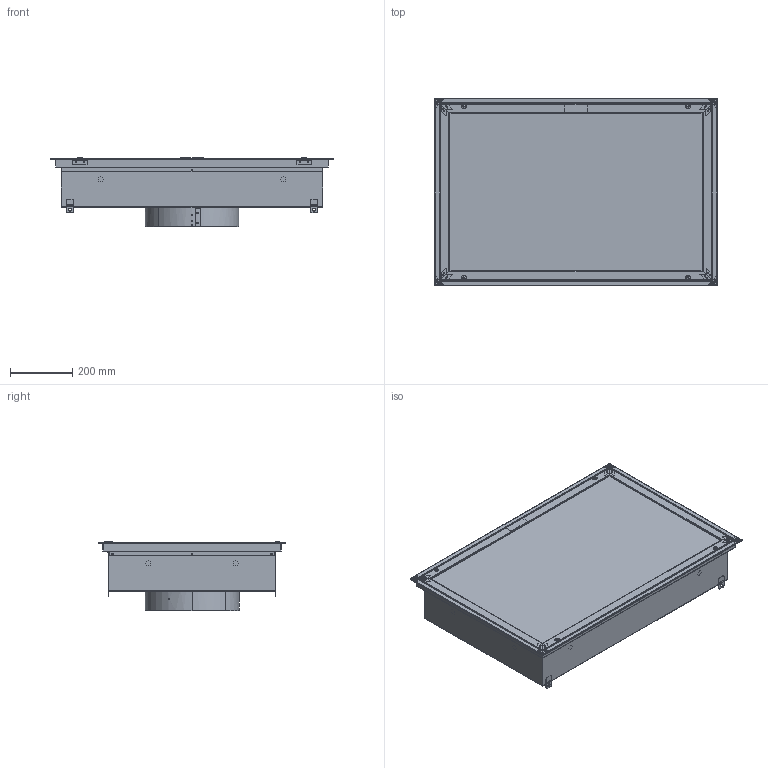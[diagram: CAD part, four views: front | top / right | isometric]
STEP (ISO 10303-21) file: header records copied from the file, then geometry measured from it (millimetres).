
FILE_DESCRIPTION (( 'STEP AP214' ), '1' );
FILE_NAME ('36 X 24_FRD_.STEP', '2025-07-25T19:03:11', ( '' ), ( '' ), 'SwSTEP 2.0', 'SolidWorks 2024', '' );
FILE_SCHEMA (( 'AUTOMOTIVE_DESIGN' ));
Length unit declared in the file: inch
Products named in the file (31): 061325-FRDs_PLASTER-SUB_L02; 061325-FRDs_FC2B20-A3_L02; 061325-FRDs_FC2B20-A4_L02; 061325-FRDs_H1E2_L02; 061325-FRDs_R2C1-SUB_L02; 061325-FRDs_H1E1_L02; 061325-FRDs_FC2B-SUB_L02; 061325-FRDs_FP3B20-A4_L02; 061325-FRDs_H2E2_L02_WELD CLIP, BOB FRAME; 061325-FRDs_H2E5_L02; 061325-FRDs_R2C1_L02; 061325-FRDs_FC2B20-A2_L02; 061325-FRDs_H1E3_L02; 061325-FRDs_P1B1B-SUB_L02; 061325-FRDs_H2G12_L02; 061325-FRDs_FACE-SUB_L02; 061325-FRDs_H1N2_L02; 061325-FRDs_PERF-SUB_L02; 061325-FRDs_FP3B20-A1_L02; 061325-FRDs_FP3B20-A2_L02; 061325-FRDs_H2E1_L02_WELD CLIP; 40º BEVEL FRAME; 061325-FRDs_H1F1_L02_1_4 TURN SPRING; 061325-FRDs_PLENUM-SUB_L02; 061325-FRDs_SAFETYCABLEASSEMBLY-SUB_L02; 061325-FRDs_FP3B20-A3_L02; 36 X 24_FRD_; 061325-FRDs_FC2B20-A1_L02; 061325-FRDs_P1B1B_L02; 061325-FRDs_C1C1C112_L02; 061325-FRDs_FP3B-SUB_L02; 061325-FRDs_H1Z24_L02
Assembly tree (52 placements, depth 5):
  36 X 24_FRD_
    061325-FRDs_PLASTER-SUB_L02
      061325-FRDs_FC2B-SUB_L02
        061325-FRDs_FC2B20-A1_L02
        061325-FRDs_FC2B20-A2_L02
        061325-FRDs_FC2B20-A3_L02
        061325-FRDs_FC2B20-A4_L02
        061325-FRDs_H2E2_L02_WELD CLIP, BOB FRAME  x4
        061325-FRDs_H2G12_L02  x4
        061325-FRDs_H1F1_L02_1_4 TURN SPRING  x4
    061325-FRDs_FACE-SUB_L02
      061325-FRDs_FP3B-SUB_L02
        061325-FRDs_FP3B20-A1_L02
        061325-FRDs_FP3B20-A2_L02
        061325-FRDs_FP3B20-A3_L02
        061325-FRDs_FP3B20-A4_L02
        061325-FRDs_H2E1_L02_WELD CLIP; 40º BEVEL FRAME  x4
        061325-FRDs_H1E1_L02  x4
        061325-FRDs_H1E2_L02  x4
        061325-FRDs_SAFETYCABLEASSEMBLY-SUB_L02  x2
          061325-FRDs_H1N2_L02
          061325-FRDs_H1E3_L02
        061325-FRDs_H1Z24_L02
    061325-FRDs_PERF-SUB_L02
      061325-FRDs_R2C1-SUB_L02
        061325-FRDs_R2C1_L02
    061325-FRDs_PLENUM-SUB_L02
      061325-FRDs_P1B1B-SUB_L02
        061325-FRDs_P1B1B_L02
        061325-FRDs_H2E5_L02  x4
    061325-FRDs_C1C1C112_L02
Bounding box: 908.05 x 603.25 x 223.61 mm (x, y, z)
Volume: 1413255.4 mm3; surface area: 3424600.5 mm2
Topology: 52 solids, 52 shells, 1716 faces, 4200 edges, 2652 vertices
Faces by surface type: plane 775, cylinder 548, bspline 193, torus 184, sphere 16
Entity records: 40733 total; most frequent: CARTESIAN_POINT 14613, ORIENTED_EDGE 5364, DIRECTION 4918, EDGE_CURVE 2682, VERTEX_POINT 1677, AXIS2_PLACEMENT_3D 1676, LINE 1566, VECTOR 1566
